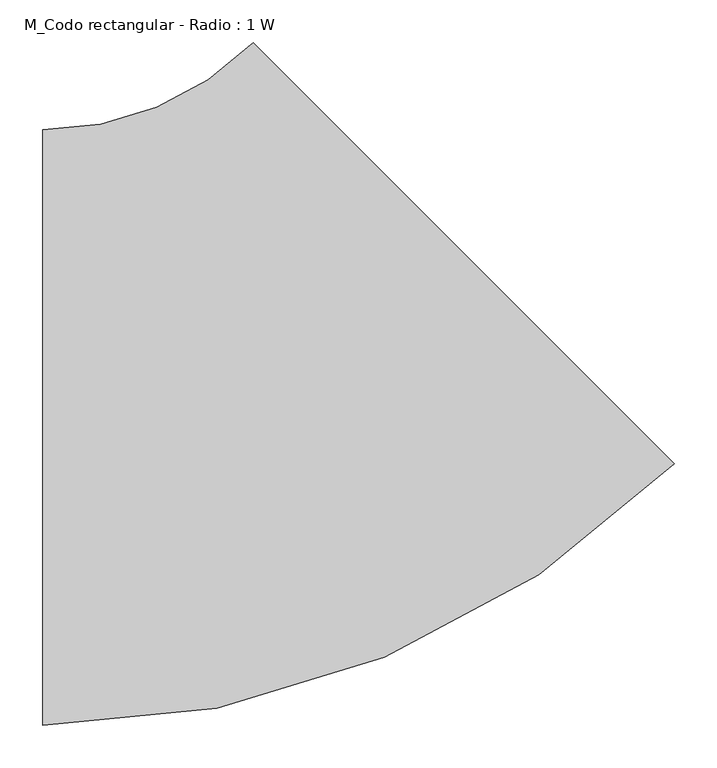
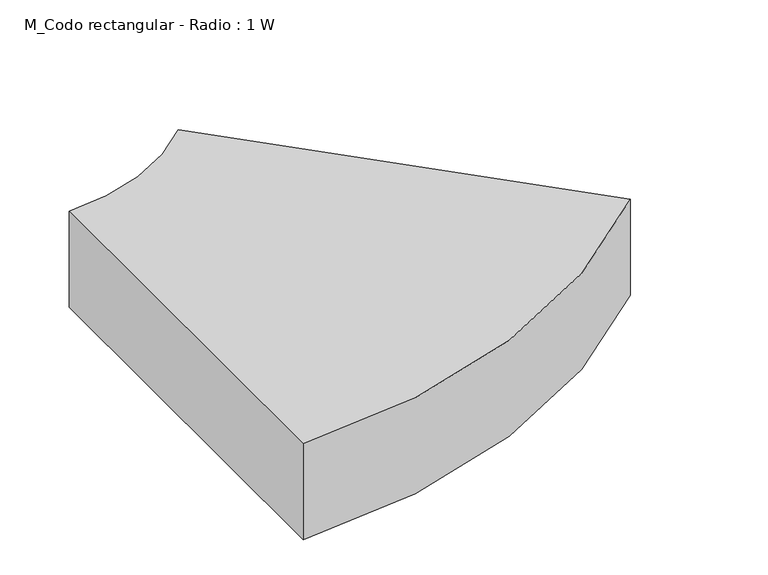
"""IFC4 building model written with IfcOpenShell, lengths in millimetres: duct fitting geometry, M_Codo rectangular - Radio : 1 W."""

from ifc_helpers import new_model, si_unit, point, frame, frame_2d, origin, place, context, project, spatial, polyline, circle_curve, trimmed, segment, composite_curve, outline, extrude, source, transform, mapped, element, save


def m_codo_rectangular_radio_1_w_07e5a874(model_context):
    return source(origin(), model_context, "Body", "SweptSolid", [
        extrude(outline(composite_curve([segment(trimmed(circle_curve(frame_2d((-289.9494937, 700.0)), 1050.0), [point((452.5126266, -42.4621202))], [point((-289.9494937, -350.0))], False, "CARTESIAN"), True, "CONTINUOUS"), segment(polyline([(-289.9494937, -350.0), (-289.9494937, 350.0)]), True, "CONTINUOUS"), segment(trimmed(circle_curve(frame_2d((-289.9494937, 700.0)), 350.0), [point((-289.9494937, 350.0))], [point((-42.4621202, 452.5126266))], True, "CARTESIAN"), True, "CONTINUOUS"), segment(polyline([(-42.4621202, 452.5126266), (452.5126266, -42.4621202)]), True, "CONTINUOUS")], self_intersect=False)), frame((0.0, 0.0, -87.5), z_axis=(0.0, 0.0, 1.0), x_axis=(1.0, 0.0, 0.0)), (0.0, 0.0, 1.0), 175.0),
    ])


if __name__ == "__main__":
    model = new_model("IFC4")
    model_context = context("Model", 3, world=origin())
    ifc_project = project(units=[si_unit("LENGTHUNIT", "METRE", prefix="MILLI")], contexts=[model_context])
    site = spatial("IfcSite", under=ifc_project)
    building = spatial("IfcBuilding", under=site)
    placement = place(None, origin())
    m_codo_rectangular_radio_1_w_shape = m_codo_rectangular_radio_1_w_07e5a874(model_context)
    element("IfcDuctFitting", 1, ObjectType="M_Codo rectangular - Radio : 1 W", at=placement, inside=building, context=model_context, shape_type="MappedRepresentation", body=[
        mapped(m_codo_rectangular_radio_1_w_shape, transform((0.0, 0.0, 0.0), x_axis=(1.0, 0.0, 0.0), y_axis=(0.0, 1.0, 0.0), z_axis=(0.0, 0.0, 1.0))),
    ])
    save(model, "model.ifc")
